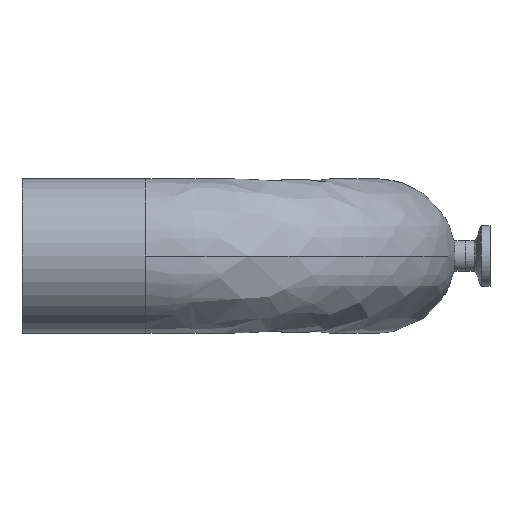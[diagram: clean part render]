
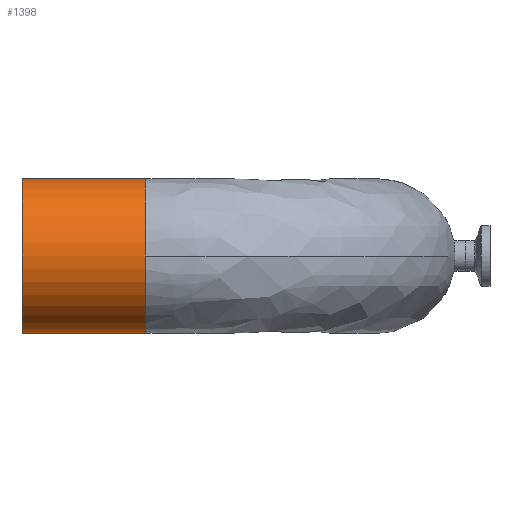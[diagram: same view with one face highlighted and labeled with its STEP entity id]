
A CAD part, left-side view. The second image highlights one B-rep face of the part: STEP entity #1398.
In plain terms, the highlighted cylindrical face has radius 31.75 mm (diameter 63.5 mm), a partial arc.
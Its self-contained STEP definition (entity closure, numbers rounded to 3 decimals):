
#52 = AXIS2_PLACEMENT_3D ( 'NONE', #645, #769, #898 ) ;
#57 = ORIENTED_EDGE ( 'NONE', *, *, #250, .T. ) ;
#132 = VERTEX_POINT ( 'NONE', #964 ) ;
#155 = AXIS2_PLACEMENT_3D ( 'NONE', #1178, #171, #407 ) ;
#171 = DIRECTION ( 'NONE',  ( 0., -1., 0. ) ) ;
#208 = DIRECTION ( 'NONE',  ( 0., 1., 0. ) ) ;
#245 = ORIENTED_EDGE ( 'NONE', *, *, #324, .F. ) ;
#250 = EDGE_CURVE ( 'NONE', #132, #1278, #722, .T. ) ;
#324 = EDGE_CURVE ( 'NONE', #909, #1116, #678, .T. ) ;
#407 = DIRECTION ( 'NONE',  ( 0., 0., 1. ) ) ;
#419 = EDGE_LOOP ( 'NONE', ( #1160, #245, #1291, #999, #57 ) ) ;
#480 = DIRECTION ( 'NONE',  ( 0., 0., 1. ) ) ;
#563 = CARTESIAN_POINT ( 'NONE',  ( -127., 95.25, 0. ) ) ;
#569 = CARTESIAN_POINT ( 'NONE',  ( -95.25, 95.25, 0. ) ) ;
#581 = CARTESIAN_POINT ( 'NONE',  ( -95.25, 95.25, -31.75 ) ) ;
#598 = VECTOR ( 'NONE', #208, 1000. ) ;
#618 = LINE ( 'NONE', #1092, #598 ) ;
#645 = CARTESIAN_POINT ( 'NONE',  ( -95.25, 95.25, 0. ) ) ;
#678 = CIRCLE ( 'NONE', #52, 31.75 ) ;
#687 = AXIS2_PLACEMENT_3D ( 'NONE', #1359, #1478, #480 ) ;
#689 = DIRECTION ( 'NONE',  ( -1., 0., 0. ) ) ;
#722 = CIRCLE ( 'NONE', #155, 31.75 ) ;
#769 = DIRECTION ( 'NONE',  ( 0., -1., 0. ) ) ;
#898 = DIRECTION ( 'NONE',  ( -1., 0., 0. ) ) ;
#909 = VERTEX_POINT ( 'NONE', #563 ) ;
#951 = DIRECTION ( 'NONE',  ( 0., 1., 0. ) ) ;
#964 = CARTESIAN_POINT ( 'NONE',  ( -95.25, 146.1, 31.75 ) ) ;
#998 = VECTOR ( 'NONE', #951, 1000. ) ;
#999 = ORIENTED_EDGE ( 'NONE', *, *, #1562, .T. ) ;
#1000 = LINE ( 'NONE', #581, #998 ) ;
#1033 = EDGE_CURVE ( 'NONE', #1116, #1278, #1000, .T. ) ;
#1092 = CARTESIAN_POINT ( 'NONE',  ( -95.25, 95.25, 31.75 ) ) ;
#1101 = CARTESIAN_POINT ( 'NONE',  ( -95.25, 95.25, -31.75 ) ) ;
#1116 = VERTEX_POINT ( 'NONE', #1101 ) ;
#1138 = CARTESIAN_POINT ( 'NONE',  ( -95.25, 95.25, 31.75 ) ) ;
#1160 = ORIENTED_EDGE ( 'NONE', *, *, #1033, .F. ) ;
#1178 = CARTESIAN_POINT ( 'NONE',  ( -95.25, 146.1, 0. ) ) ;
#1219 = FACE_OUTER_BOUND ( 'NONE', #419, .T. ) ;
#1229 = VERTEX_POINT ( 'NONE', #1138 ) ;
#1278 = VERTEX_POINT ( 'NONE', #1557 ) ;
#1291 = ORIENTED_EDGE ( 'NONE', *, *, #1300, .F. ) ;
#1300 = EDGE_CURVE ( 'NONE', #1229, #909, #1424, .T. ) ;
#1359 = CARTESIAN_POINT ( 'NONE',  ( -95.25, 95.25, 0. ) ) ;
#1398 = ADVANCED_FACE ( 'NONE', ( #1219 ), #1477, .T. ) ;
#1424 = CIRCLE ( 'NONE', #1486, 31.75 ) ;
#1448 = DIRECTION ( 'NONE',  ( 0., -1., 0. ) ) ;
#1477 = CYLINDRICAL_SURFACE ( 'NONE', #687, 31.75 ) ;
#1478 = DIRECTION ( 'NONE',  ( 0., 1., 0. ) ) ;
#1486 = AXIS2_PLACEMENT_3D ( 'NONE', #569, #1448, #689 ) ;
#1557 = CARTESIAN_POINT ( 'NONE',  ( -95.25, 146.1, -31.75 ) ) ;
#1562 = EDGE_CURVE ( 'NONE', #1229, #132, #618, .T. ) ;
